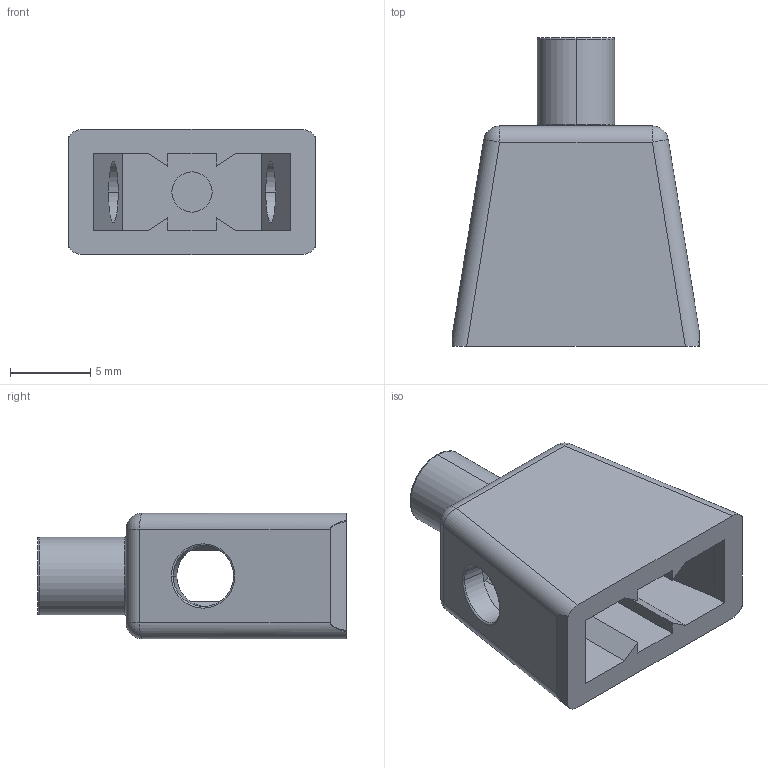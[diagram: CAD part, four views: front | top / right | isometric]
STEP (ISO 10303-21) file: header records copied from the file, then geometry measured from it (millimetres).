
FILE_DESCRIPTION (( 'STEP AP203' ), '1' );
FILE_NAME ('Lego Character - Body.STEP', '2015-12-11T18:41:09', ( '' ), ( '' ), 'SwSTEP 2.0', 'SolidWorks 2014', '' );
FILE_SCHEMA (( 'CONFIG_CONTROL_DESIGN' ));
Length unit declared in the file: millimetre
Products named in the file (2): Lego Character - Body
Bounding box: 15.3 x 19.2 x 7.8 mm (x, y, z)
Volume: 860.7 mm3; surface area: 1266.5 mm2
Topology: 1 solids, 1 shells, 63 faces, 154 edges, 92 vertices
Faces by surface type: plane 29, cylinder 18, torus 8, sphere 4, bspline 4
Entity records: 2007 total; most frequent: CARTESIAN_POINT 411, DIRECTION 304, ORIENTED_EDGE 300, EDGE_CURVE 150, AXIS2_PLACEMENT_3D 109, VERTEX_POINT 92, LINE 86, VECTOR 86
